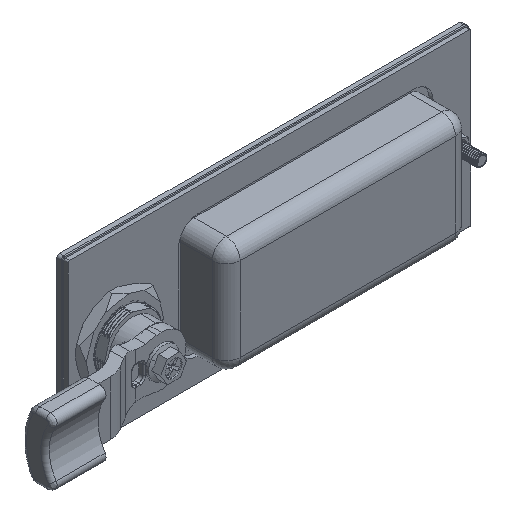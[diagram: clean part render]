
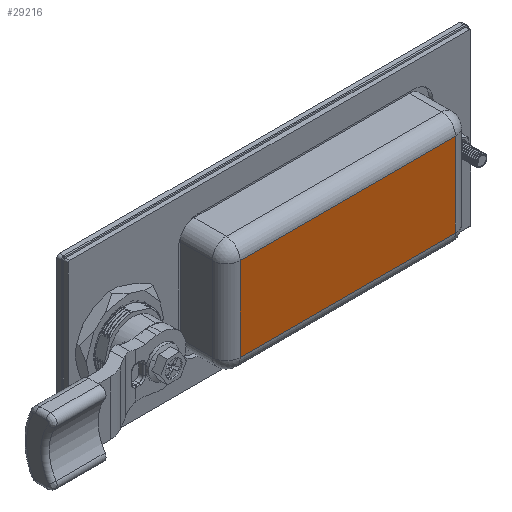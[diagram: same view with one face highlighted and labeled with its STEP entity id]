
A CAD part, isometric view. The second image highlights one B-rep face of the part: STEP entity #29216.
In plain terms, the highlighted planar face has unit normal (0, -1, 0).
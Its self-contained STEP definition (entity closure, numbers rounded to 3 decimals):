
#1257 = DIRECTION ( 'NONE',  ( 1., 0., 0. ) ) ;
#2219 = VECTOR ( 'NONE', #6534, 1000. ) ;
#3255 = DIRECTION ( 'NONE',  ( 0., 0., -1. ) ) ;
#6534 = DIRECTION ( 'NONE',  ( -1., 0., 0. ) ) ;
#9465 = VECTOR ( 'NONE', #3255, 1000. ) ;
#10270 = CARTESIAN_POINT ( 'NONE',  ( -25.5, -17., -15. ) ) ;
#13120 = VERTEX_POINT ( 'NONE', #53354 ) ;
#13413 = VERTEX_POINT ( 'NONE', #77686 ) ;
#14747 = VECTOR ( 'NONE', #1257, 1000. ) ;
#16897 = EDGE_CURVE ( 'NONE', #13120, #92454, #97923, .T. ) ;
#19262 = ORIENTED_EDGE ( 'NONE', *, *, #110914, .T. ) ;
#24970 = EDGE_CURVE ( 'NONE', #13413, #13120, #62458, .T. ) ;
#26110 = EDGE_LOOP ( 'NONE', ( #76396, #19262, #111527, #31809 ) ) ;
#28919 = CARTESIAN_POINT ( 'NONE',  ( 56.5, -17., -15. ) ) ;
#29216 = ADVANCED_FACE ( 'NONE', ( #34368 ), #73682, .T. ) ;
#31539 = CARTESIAN_POINT ( 'NONE',  ( -25.5, -17., 0. ) ) ;
#31809 = ORIENTED_EDGE ( 'NONE', *, *, #24970, .T. ) ;
#34368 = FACE_OUTER_BOUND ( 'NONE', #26110, .T. ) ;
#35899 = CARTESIAN_POINT ( 'NONE',  ( 51.5, -17., 20. ) ) ;
#42462 = VERTEX_POINT ( 'NONE', #101546 ) ;
#45110 = DIRECTION ( 'NONE',  ( 0., 0., 1. ) ) ;
#53354 = CARTESIAN_POINT ( 'NONE',  ( -25.5, -17., 15. ) ) ;
#54642 = DIRECTION ( 'NONE',  ( 0., -1., 0. ) ) ;
#58133 = EDGE_CURVE ( 'NONE', #42462, #13413, #120161, .T. ) ;
#62458 = LINE ( 'NONE', #90749, #2219 ) ;
#67590 = VECTOR ( 'NONE', #45110, 1000. ) ;
#71260 = CARTESIAN_POINT ( 'NONE',  ( 0., -17., 0. ) ) ;
#72639 = LINE ( 'NONE', #28919, #14747 ) ;
#73682 = PLANE ( 'NONE',  #81966 ) ;
#76396 = ORIENTED_EDGE ( 'NONE', *, *, #16897, .T. ) ;
#77686 = CARTESIAN_POINT ( 'NONE',  ( 51.5, -17., 15. ) ) ;
#81966 = AXIS2_PLACEMENT_3D ( 'NONE', #71260, #54642, #92151 ) ;
#90749 = CARTESIAN_POINT ( 'NONE',  ( 0., -17., 15. ) ) ;
#92151 = DIRECTION ( 'NONE',  ( 0., 0., -1. ) ) ;
#92454 = VERTEX_POINT ( 'NONE', #10270 ) ;
#97923 = LINE ( 'NONE', #31539, #9465 ) ;
#101546 = CARTESIAN_POINT ( 'NONE',  ( 51.5, -17., -15. ) ) ;
#110914 = EDGE_CURVE ( 'NONE', #92454, #42462, #72639, .T. ) ;
#111527 = ORIENTED_EDGE ( 'NONE', *, *, #58133, .T. ) ;
#120161 = LINE ( 'NONE', #35899, #67590 ) ;
